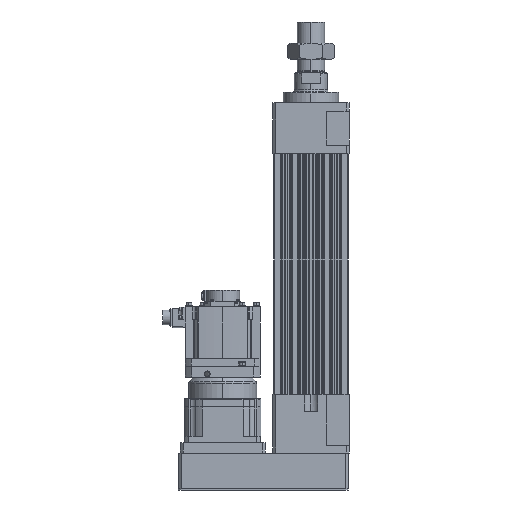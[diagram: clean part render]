
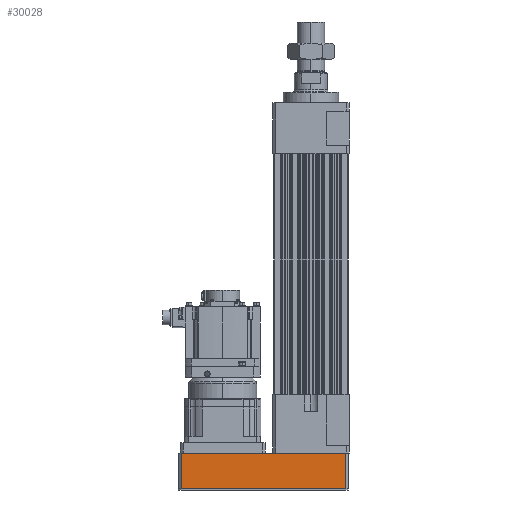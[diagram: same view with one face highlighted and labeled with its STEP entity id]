
A CAD part, left-side view. The second image highlights one B-rep face of the part: STEP entity #30028.
In plain terms, the highlighted planar face has unit normal (-1, 0, 0).
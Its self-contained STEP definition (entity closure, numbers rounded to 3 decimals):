
#1550 = VECTOR ( 'NONE', #43898, 1000. ) ;
#2368 = DIRECTION ( 'NONE',  ( 0., 1., 0. ) ) ;
#2459 = ORIENTED_EDGE ( 'NONE', *, *, #10977, .F. ) ;
#3309 = ORIENTED_EDGE ( 'NONE', *, *, #53117, .T. ) ;
#7260 = CARTESIAN_POINT ( 'NONE',  ( -88., 306., -138.5 ) ) ;
#8112 = CARTESIAN_POINT ( 'NONE',  ( -88., -82., -222. ) ) ;
#8752 = PLANE ( 'NONE',  #29875 ) ;
#10977 = EDGE_CURVE ( 'NONE', #50846, #16673, #50929, .T. ) ;
#11898 = LINE ( 'NONE', #50993, #45206 ) ;
#12523 = CARTESIAN_POINT ( 'NONE',  ( -88., 306., -221.5 ) ) ;
#14493 = FACE_OUTER_BOUND ( 'NONE', #29414, .T. ) ;
#15035 = VECTOR ( 'NONE', #2368, 1000. ) ;
#15652 = LINE ( 'NONE', #51512, #15035 ) ;
#16673 = VERTEX_POINT ( 'NONE', #7260 ) ;
#20367 = CARTESIAN_POINT ( 'NONE',  ( -88., -82., -138.5 ) ) ;
#20643 = EDGE_CURVE ( 'NONE', #50846, #40788, #11898, .T. ) ;
#23781 = ORIENTED_EDGE ( 'NONE', *, *, #48229, .T. ) ;
#25032 = VERTEX_POINT ( 'NONE', #20367 ) ;
#25066 = DIRECTION ( 'NONE',  ( 1., 0., 0. ) ) ;
#26977 = DIRECTION ( 'NONE',  ( 0., -1., 0. ) ) ;
#29414 = EDGE_LOOP ( 'NONE', ( #2459, #40013, #3309, #23781 ) ) ;
#29875 = AXIS2_PLACEMENT_3D ( 'NONE', #37447, #25066, #49966 ) ;
#30028 = ADVANCED_FACE ( 'NONE', ( #14493 ), #8752, .F. ) ;
#32359 = DIRECTION ( 'NONE',  ( 0., 0., 1. ) ) ;
#34754 = VECTOR ( 'NONE', #32359, 1000. ) ;
#36074 = CARTESIAN_POINT ( 'NONE',  ( -88., 306., -222. ) ) ;
#37447 = CARTESIAN_POINT ( 'NONE',  ( -88., -82., -222. ) ) ;
#37961 = LINE ( 'NONE', #8112, #34754 ) ;
#40013 = ORIENTED_EDGE ( 'NONE', *, *, #20643, .T. ) ;
#40788 = VERTEX_POINT ( 'NONE', #48463 ) ;
#43898 = DIRECTION ( 'NONE',  ( 0., 0., 1. ) ) ;
#45206 = VECTOR ( 'NONE', #26977, 1000. ) ;
#48229 = EDGE_CURVE ( 'NONE', #25032, #16673, #15652, .T. ) ;
#48463 = CARTESIAN_POINT ( 'NONE',  ( -88., -82., -221.5 ) ) ;
#49966 = DIRECTION ( 'NONE',  ( 0., 0., -1. ) ) ;
#50846 = VERTEX_POINT ( 'NONE', #12523 ) ;
#50929 = LINE ( 'NONE', #36074, #1550 ) ;
#50993 = CARTESIAN_POINT ( 'NONE',  ( -88., -82., -221.5 ) ) ;
#51512 = CARTESIAN_POINT ( 'NONE',  ( -88., -82., -138.5 ) ) ;
#53117 = EDGE_CURVE ( 'NONE', #40788, #25032, #37961, .T. ) ;
